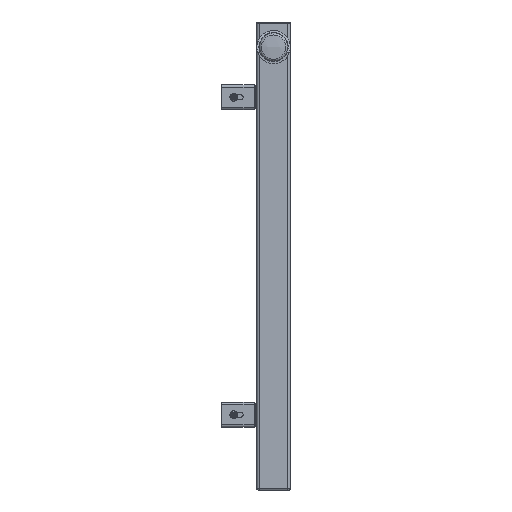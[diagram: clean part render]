
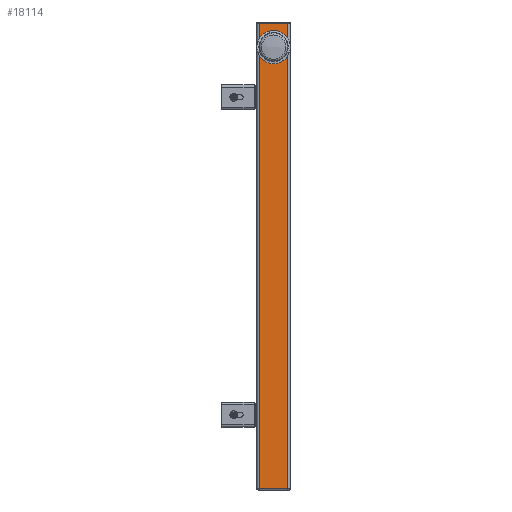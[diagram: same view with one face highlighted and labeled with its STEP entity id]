
A CAD part, left-side view. The second image highlights one B-rep face of the part: STEP entity #18114.
In plain terms, the highlighted planar face has unit normal (-1, 0, 0).
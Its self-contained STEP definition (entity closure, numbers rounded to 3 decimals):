
#17491=CARTESIAN_POINT('',(-40.,-17.0,1.5));
#17492=VERTEX_POINT('',#17491);
#17535=CARTESIAN_POINT('',(-40.,17.0,1.5));
#17536=VERTEX_POINT('',#17535);
#17553=CARTESIAN_POINT('',(-40.,-17.0,1.5));
#17554=DIRECTION('',(0.0,1.0,0.0));
#17555=VECTOR('',#17554,34.0);
#17556=LINE('',#17553,#17555);
#17557=EDGE_CURVE('',#17492,#17536,#17556,.T.);
#18061=CARTESIAN_POINT('',(-40.,17.0,558.5));
#18062=VERTEX_POINT('',#18061);
#18063=CARTESIAN_POINT('',(-40.,17.0,1.5));
#18064=DIRECTION('',(0.0,0.0,1.0));
#18065=VECTOR('',#18064,557.0);
#18066=LINE('',#18063,#18065);
#18067=EDGE_CURVE('',#17536,#18062,#18066,.T.);
#18080=CARTESIAN_POINT('',(-40.,-17.0,0.0));
#18081=DIRECTION('',(-1.0,0.0,0.0));
#18082=DIRECTION('',(0.0,0.0,1.0));
#18083=AXIS2_PLACEMENT_3D('',#18080,#18081,#18082);
#18084=PLANE('',#18083);
#18085=ORIENTED_EDGE('',*,*,#17557,.F.);
#18086=CARTESIAN_POINT('',(-40.,-17.0,558.5));
#18087=VERTEX_POINT('',#18086);
#18088=CARTESIAN_POINT('',(-40.,-17.0,1.5));
#18089=DIRECTION('',(0.0,0.0,1.0));
#18090=VECTOR('',#18089,557.0);
#18091=LINE('',#18088,#18090);
#18092=EDGE_CURVE('',#17492,#18087,#18091,.T.);
#18093=ORIENTED_EDGE('',*,*,#18092,.T.);
#18094=CARTESIAN_POINT('',(-40.,17.,558.5));
#18095=DIRECTION('',(0.0,-1.0,0.0));
#18096=VECTOR('',#18095,34.0);
#18097=LINE('',#18094,#18096);
#18098=EDGE_CURVE('',#18062,#18087,#18097,.T.);
#18099=ORIENTED_EDGE('',*,*,#18098,.F.);
#18100=ORIENTED_EDGE('',*,*,#18067,.F.);
#18101=EDGE_LOOP('',(#18085,#18093,#18099,#18100));
#18102=FACE_OUTER_BOUND('',#18101,.T.);
#18103=CARTESIAN_POINT('',(-40.,0.,545.0));
#18104=VERTEX_POINT('',#18103);
#18105=CARTESIAN_POINT('',(-40.,0.0,530.0));
#18106=DIRECTION('',(1.0,0.0,0.0));
#18107=DIRECTION('',(0.0,0.0,-1.0));
#18108=AXIS2_PLACEMENT_3D('',#18105,#18106,#18107);
#18109=CIRCLE('',#18108,15.0);
#18110=EDGE_CURVE('',#18104,#18104,#18109,.T.);
#18111=ORIENTED_EDGE('',*,*,#18110,.T.);
#18112=EDGE_LOOP('',(#18111));
#18113=FACE_BOUND('',#18112,.T.);
#18114=ADVANCED_FACE('',(#18102,#18113),#18084,.T.);
